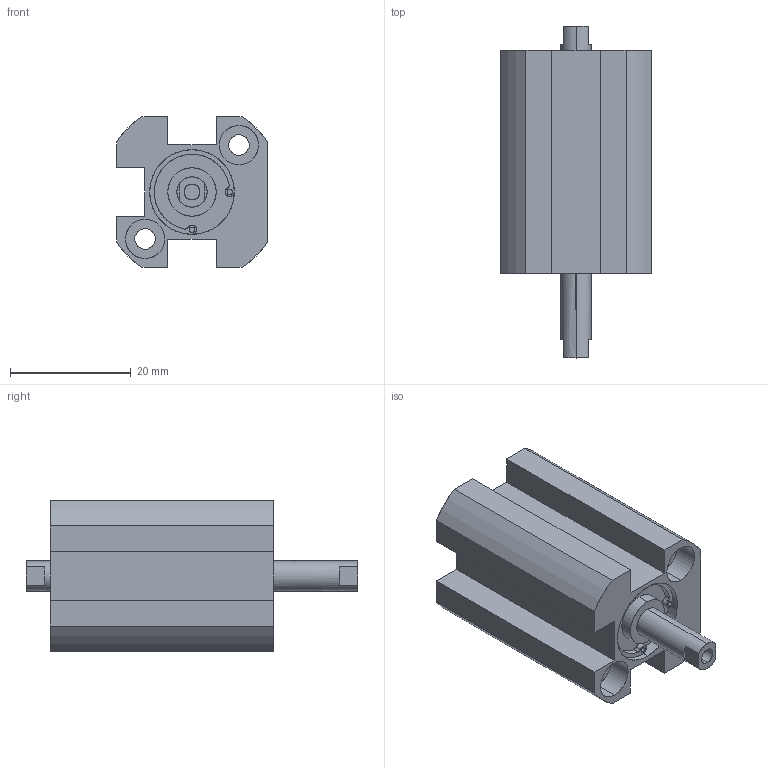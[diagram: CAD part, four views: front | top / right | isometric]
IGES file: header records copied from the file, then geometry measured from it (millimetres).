
Start section: SolidWorks IGES file using analytic representation for surfaces
Global section: file name: C:\Users\Toshiba\Desktop\XC#7-10D-10.IGS; native system: SolidWorks 2014; preprocessor: SolidWorks 2014; author: Toshiba; date: 160523.161901; units: millimetre
Bounding box: 25 x 55 x 25 mm (x, y, z)
Surface area: 7242.1 mm2 (no closed solid volume)
Topology: 0 solids, 0 shells, 106 faces, 1768 edges, 1764 vertices
Faces by surface type: revolution 62, bspline 44
